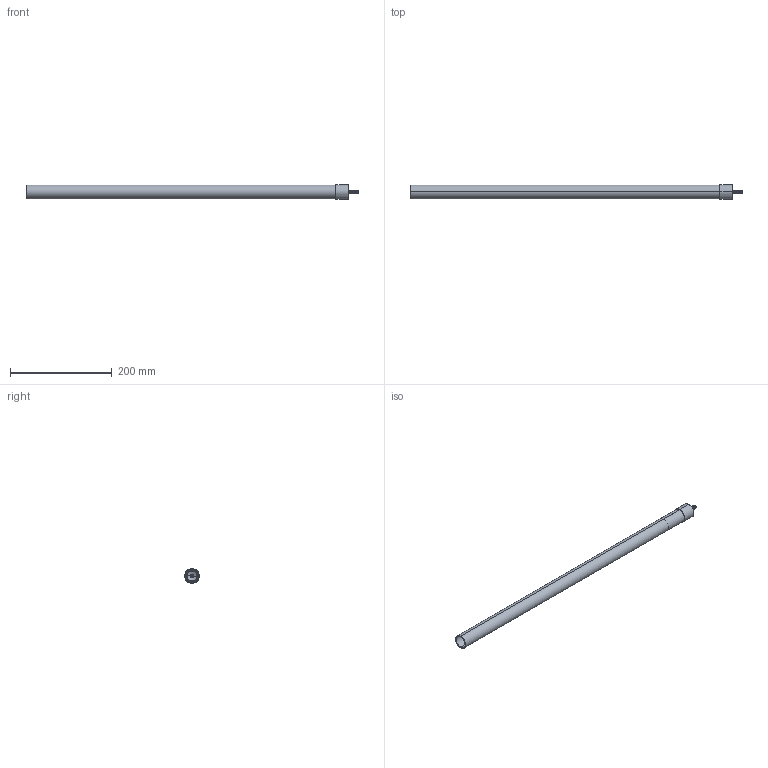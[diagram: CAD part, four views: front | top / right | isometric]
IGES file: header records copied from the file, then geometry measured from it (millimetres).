
Start section: SolidWorks IGES file using analytic representation for surfaces
Global section: file name: \\SERVER3\Design\_New Design Drive Folder List\_Design Vault\AAI\Modular Round Tube Connectors\Solidworks Models\Demonstrations\25. Assemblies\Modular Connectors\1. End Connectors\End Connectors Solid Models\Threaded End Connector.IGS; native system: SolidWorks 2013; preprocessor: SolidWorks 2013; author: tbraun; date: 130819.103341; units: inch
Bounding box: 653.22 x 28.57 x 28.57 mm (x, y, z)
Surface area: 114064.8 mm2 (no closed solid volume)
Topology: 0 solids, 0 shells, 253 faces, 3255 edges, 3252 vertices
Faces by surface type: revolution 223, bspline 30
